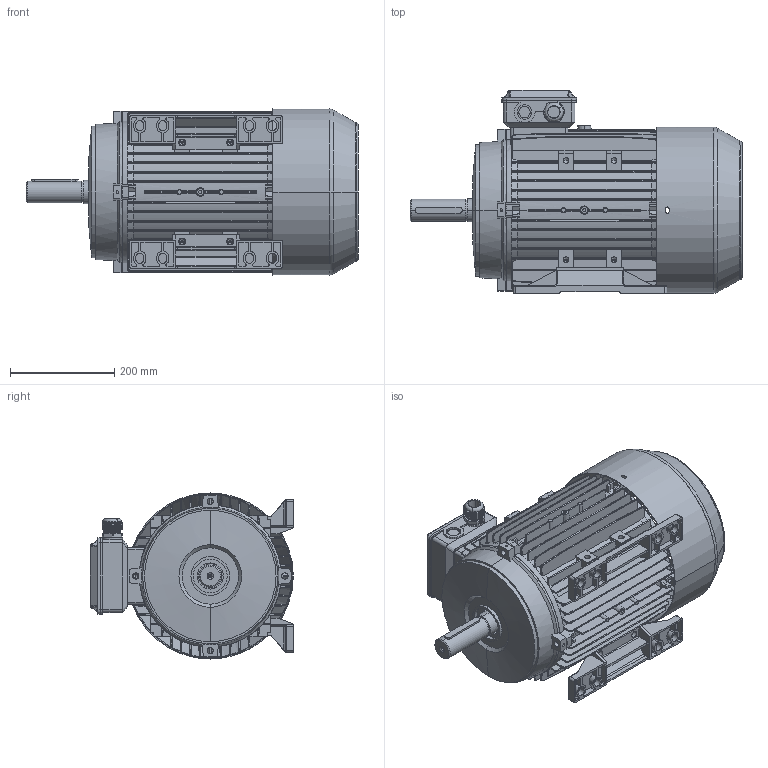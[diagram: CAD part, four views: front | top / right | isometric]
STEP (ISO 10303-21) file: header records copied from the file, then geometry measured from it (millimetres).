
FILE_DESCRIPTION (( 'STEP AP203' ), '1' );
FILE_NAME ('MME160 assembly B3 .STEP', '2014-08-19T00:41:29', ( '' ), ( '' ), 'SwSTEP 2.0', 'SolidWorks 2010', '' );
FILE_SCHEMA (( 'CONFIG_CONTROL_DESIGN' ));
Length unit declared in the file: millimetre
Products named in the file (9): MME160 assembly B3 ; M160諉盄碟釱_1Hole; M32 cable gland; M160傷裔B3_Post; M160儂褲; M160諉盄碟裔; M160-Shaft drive end; Y2 160瑞欶 _136; M160菁褐
Assembly tree (9 placements, depth 2):
  MME160 assembly B3 
    M160菁褐  x2
    M160-Shaft drive end
    Y2 160瑞欶 _136
    M160諉盄碟裔
    M32 cable gland
    M160傷裔B3_Post
    M160儂褲
    M160諉盄碟釱_1Hole
Bounding box: 636 x 390 x 318 mm (x, y, z)
Volume: 3984495.6 mm3; surface area: 2023091.9 mm2
Topology: 10 solids, 10 shells, 5602 faces, 15767 edges, 10217 vertices
Faces by surface type: plane 2436, cylinder 2282, bspline 594, cone 220, torus 66, sphere 4
Entity records: 268383 total; most frequent: CARTESIAN_POINT 127851, ORIENTED_EDGE 30450, DIRECTION 27534, EDGE_CURVE 15225, VERTEX_POINT 9887, AXIS2_PLACEMENT_3D 9501, VECTOR 8532, LINE 8532
